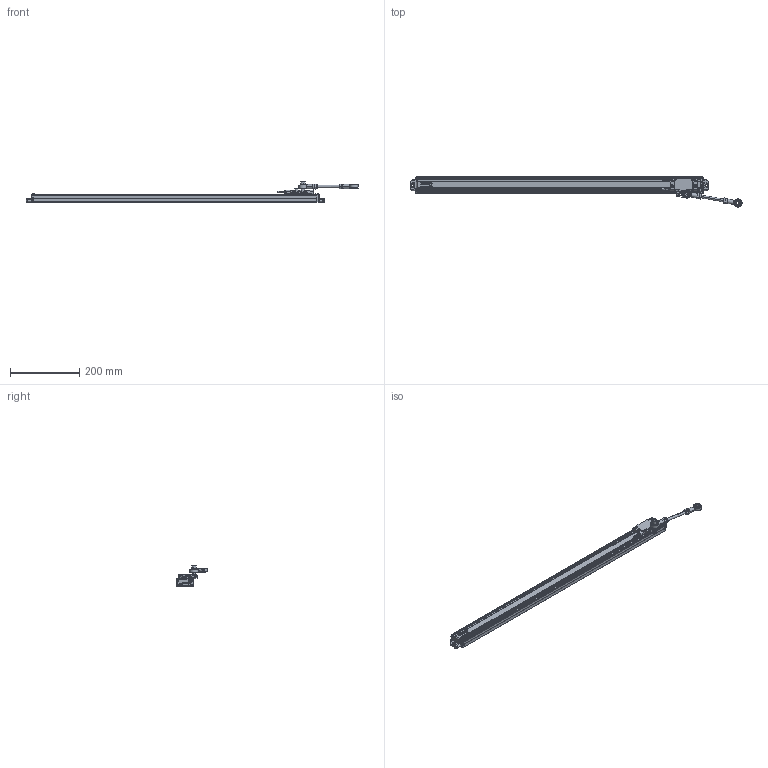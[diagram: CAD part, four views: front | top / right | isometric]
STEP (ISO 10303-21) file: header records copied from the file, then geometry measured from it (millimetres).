
FILE_DESCRIPTION(('Creo Elements/Direct Modeling STEP Export'),'2;1');
FILE_NAME('SERIE_PB-720.stp','2017-01-11T12:56:09',(''),(''),'Creo Elements/Direct Modeling STEP processor for AP214 (Solid Model)','Creo Elements/Direct Modeling 18.1H 24-Oct-2015 (C) Parametric Technology GmbH','');
FILE_SCHEMA(('AUTOMOTIVE_DESIGN { 1 0 10303 214 1 1 1 1 }'));
Length unit declared in the file: millimetre
Products named in the file (14): BLOCK; COUPLING_BAR; IO; READING_HEAD_BODY; SCALE_BLOCK_1; SCALE_BLOCK_2; SCALE_BODY_720
Assembly tree (7 placements, depth 2):
  BLOCK
    BLOCK
  COUPLING_BAR
    COUPLING_BAR
  IO
    IO
  READING_HEAD_BODY
    READING_HEAD_BODY
  SCALE_BLOCK_1
    SCALE_BLOCK_1
Bounding box: 960.72 x 87.83 x 59.41 mm (x, y, z)
Volume: 896115.4 mm3; surface area: 171082.4 mm2
Topology: 9 solids, 13 shells, 1960 faces, 5109 edges, 3177 vertices
Faces by surface type: plane 891, cylinder 671, bspline 198, torus 70, cone 70, sphere 51, extrusion 9
Entity records: 90029 total; most frequent: CARTESIAN_POINT 41051, ORIENTED_EDGE 10084, DIRECTION 8481, EDGE_CURVE 5034, VERTEX_POINT 3177, VECTOR 2925, LINE 2916, AXIS2_PLACEMENT_3D 2778
